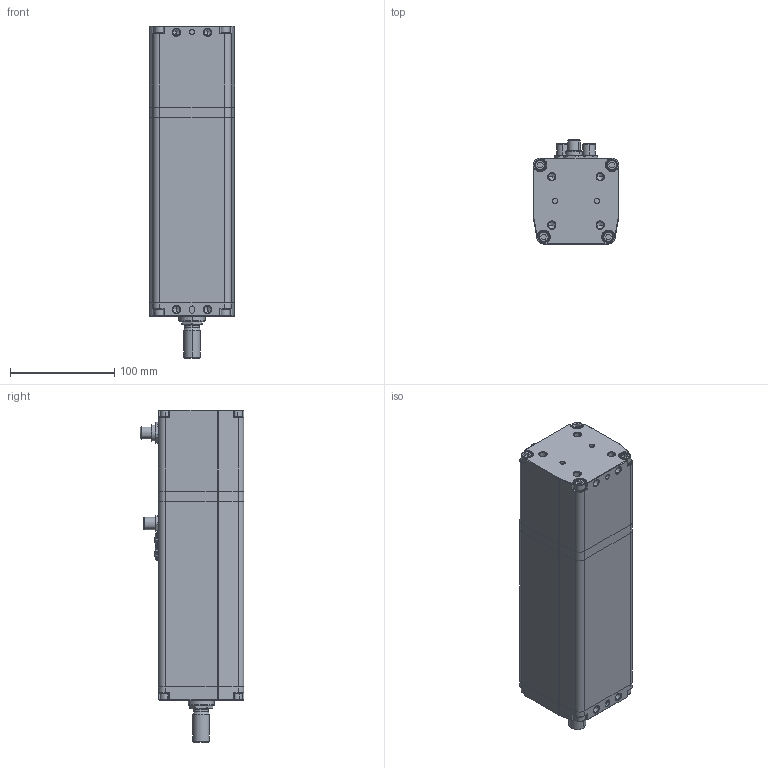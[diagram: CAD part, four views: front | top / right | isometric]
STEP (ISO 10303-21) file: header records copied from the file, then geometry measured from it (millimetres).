
FILE_DESCRIPTION (( 'STEP AP203' ), '1' );
FILE_NAME ('CTC-080-K__-____-_.step', '2023-09-29T10:03:19', ( '' ), ( '' ), 'SwSTEP 2.0', 'SolidWorks 2020', '' );
FILE_SCHEMA (( 'CONFIG_CONTROL_DESIGN' ));
Length unit declared in the file: millimetre
Products named in the file (4): CTC-080_Schubrohr_Hub 0100; CTC-080_Aufsatz-A_M16x1.5; CTC-080_housing_Hub_0100_Bremse; CTC-080-K__-____-_
Assembly tree (3 placements, depth 2):
  CTC-080-K__-____-_
    CTC-080_housing_Hub_0100_Bremse
    CTC-080_Schubrohr_Hub 0100
    CTC-080_Aufsatz-A_M16x1.5
Bounding box: 82 x 99.6 x 319 mm (x, y, z)
Volume: 1746729.7 mm3; surface area: 223430.6 mm2
Topology: 34 solids, 34 shells, 860 faces, 1914 edges, 1187 vertices
Faces by surface type: cylinder 338, plane 326, cone 100, torus 88, sphere 8
Entity records: 24204 total; most frequent: DIRECTION 4484, CARTESIAN_POINT 4163, ORIENTED_EDGE 3780, EDGE_CURVE 1890, AXIS2_PLACEMENT_3D 1776, VERTEX_POINT 1187, EDGE_LOOP 957, VECTOR 932
